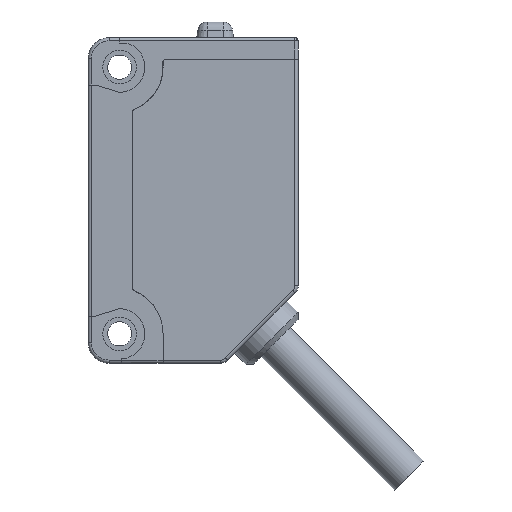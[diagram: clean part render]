
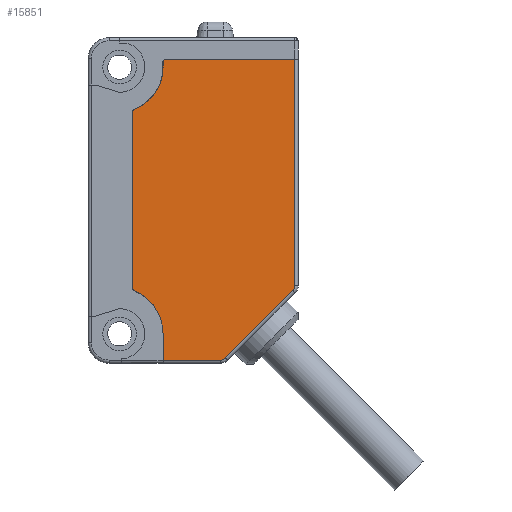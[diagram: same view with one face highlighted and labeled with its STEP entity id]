
A CAD part, left-side view. The second image highlights one B-rep face of the part: STEP entity #15851.
In plain terms, the highlighted planar face has unit normal (-1, 0, 0).
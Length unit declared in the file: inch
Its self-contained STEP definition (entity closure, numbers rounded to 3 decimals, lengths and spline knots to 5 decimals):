
#935 = ORIENTED_EDGE ( 'NONE', *, *, #15238, .F. ) ;
#1095 = CARTESIAN_POINT ( 'NONE',  ( -0.21654, 0.50643, -0.57087 ) ) ;
#1199 = EDGE_CURVE ( 'NONE', #21270, #33873, #14741, .T. ) ;
#1267 = DIRECTION ( 'NONE',  ( 0., 1., 0. ) ) ;
#1318 = EDGE_CURVE ( 'NONE', #1809, #26102, #7555, .T. ) ;
#1695 = VERTEX_POINT ( 'NONE', #8386 ) ;
#1795 = EDGE_CURVE ( 'NONE', #43119, #11109, #35723, .T. ) ;
#1809 = VERTEX_POINT ( 'NONE', #44431 ) ;
#1987 = CARTESIAN_POINT ( 'NONE',  ( -0.21654, 0.27241, -0.56279 ) ) ;
#2736 = EDGE_CURVE ( 'NONE', #28666, #42745, #25081, .T. ) ;
#2838 = CARTESIAN_POINT ( 'NONE',  ( -0.21654, 0., 0. ) ) ;
#3295 = ORIENTED_EDGE ( 'NONE', *, *, #17270, .F. ) ;
#4441 = CARTESIAN_POINT ( 'NONE',  ( -0.21654, 0.6088, -0.30028 ) ) ;
#4713 = VERTEX_POINT ( 'NONE', #25375 ) ;
#5440 = EDGE_CURVE ( 'NONE', #26102, #4713, #41441, .T. ) ;
#6232 = DIRECTION ( 'NONE',  ( 0., -1., 0. ) ) ;
#6259 = EDGE_CURVE ( 'NONE', #39926, #43119, #13761, .T. ) ;
#6353 = VERTEX_POINT ( 'NONE', #42591 ) ;
#6576 = CARTESIAN_POINT ( 'NONE',  ( -0.21654, 0.67717, 0.52805 ) ) ;
#6607 = CARTESIAN_POINT ( 'NONE',  ( -0.21654, 0.03937, -0.29078 ) ) ;
#6726 = VECTOR ( 'NONE', #24065, 39.37008 ) ;
#7150 = VERTEX_POINT ( 'NONE', #13775 ) ;
#7555 = LINE ( 'NONE', #27389, #16955 ) ;
#7605 = EDGE_LOOP ( 'NONE', ( #20472, #41293, #38180, #32283, #3295, #42325, #16532, #37406, #18967, #935, #16782, #17931, #43554, #27049 ) ) ;
#8002 = DIRECTION ( 'NONE',  ( 0., 0., 1. ) ) ;
#8383 = DIRECTION ( 'NONE',  ( 1., 0., 0. ) ) ;
#8386 = CARTESIAN_POINT ( 'NONE',  ( -0.21654, 0.2919, -0.57087 ) ) ;
#9004 = CARTESIAN_POINT ( 'NONE',  ( -0.21654, 0.6088, 0.35879 ) ) ;
#9093 = CIRCLE ( 'NONE', #30093, 0.17073 ) ;
#9444 = FACE_OUTER_BOUND ( 'NONE', #7605, .T. ) ;
#10158 = DIRECTION ( 'NONE',  ( 0., 0., 1. ) ) ;
#10193 = DIRECTION ( 'NONE',  ( 0., 1., 0. ) ) ;
#11002 = EDGE_CURVE ( 'NONE', #33873, #1809, #42636, .T. ) ;
#11109 = VERTEX_POINT ( 'NONE', #23910 ) ;
#11250 = CARTESIAN_POINT ( 'NONE',  ( -0.21654, 0.50643, 0.52805 ) ) ;
#12555 = DIRECTION ( 'NONE',  ( 0., 0., 1. ) ) ;
#12675 = CARTESIAN_POINT ( 'NONE',  ( -0.21654, 0.49462, 0.5458 ) ) ;
#13527 = DIRECTION ( 'NONE',  ( 0., 0., -1. ) ) ;
#13599 = VECTOR ( 'NONE', #28758, 39.37008 ) ;
#13761 = LINE ( 'NONE', #20735, #31472 ) ;
#13775 = CARTESIAN_POINT ( 'NONE',  ( -0.21654, 0.61339, -0.31116 ) ) ;
#14284 = CIRCLE ( 'NONE', #17305, 0.01181 ) ;
#14741 = LINE ( 'NONE', #35909, #13599 ) ;
#15238 = EDGE_CURVE ( 'NONE', #6353, #18265, #25514, .T. ) ;
#15322 = CARTESIAN_POINT ( 'NONE',  ( -0.21654, 0.50643, 0.5458 ) ) ;
#15707 = VECTOR ( 'NONE', #32168, 39.37008 ) ;
#15851 = ADVANCED_FACE ( 'NONE', ( #9444 ), #31164, .F. ) ;
#16236 = DIRECTION ( 'NONE',  ( 0., 0., 1. ) ) ;
#16532 = ORIENTED_EDGE ( 'NONE', *, *, #2736, .F. ) ;
#16782 = ORIENTED_EDGE ( 'NONE', *, *, #36564, .F. ) ;
#16955 = VECTOR ( 'NONE', #6232, 39.37008 ) ;
#17205 = CARTESIAN_POINT ( 'NONE',  ( -0.21654, 0.68151, -0.47244 ) ) ;
#17270 = EDGE_CURVE ( 'NONE', #7150, #39926, #14284, .T. ) ;
#17305 = AXIS2_PLACEMENT_3D ( 'NONE', #4441, #29175, #8002 ) ;
#17872 = EDGE_CURVE ( 'NONE', #42745, #7150, #36908, .T. ) ;
#17931 = ORIENTED_EDGE ( 'NONE', *, *, #5440, .F. ) ;
#18265 = VERTEX_POINT ( 'NONE', #1987 ) ;
#18929 = CARTESIAN_POINT ( 'NONE',  ( -0.21654, 0., -0.57087 ) ) ;
#18967 = ORIENTED_EDGE ( 'NONE', *, *, #35065, .F. ) ;
#19593 = DIRECTION ( 'NONE',  ( 0., 0., -1. ) ) ;
#20472 = ORIENTED_EDGE ( 'NONE', *, *, #1199, .F. ) ;
#20540 = AXIS2_PLACEMENT_3D ( 'NONE', #6607, #31353, #10193 ) ;
#20717 = DIRECTION ( 'NONE',  ( 0., 0., 1. ) ) ;
#20735 = CARTESIAN_POINT ( 'NONE',  ( -0.21654, 0.62061, 0. ) ) ;
#21270 = VERTEX_POINT ( 'NONE', #11250 ) ;
#22600 = VECTOR ( 'NONE', #19593, 39.37008 ) ;
#23910 = CARTESIAN_POINT ( 'NONE',  ( -0.21654, 0.61322, 0.36975 ) ) ;
#24065 = DIRECTION ( 'NONE',  ( 0., 0.707, -0.707 ) ) ;
#24294 = DIRECTION ( 'NONE',  ( 0., 0., 1. ) ) ;
#25081 = LINE ( 'NONE', #42716, #15707 ) ;
#25375 = CARTESIAN_POINT ( 'NONE',  ( -0.21654, 0.01181, -0.29078 ) ) ;
#25514 = LINE ( 'NONE', #27627, #6726 ) ;
#25983 = CARTESIAN_POINT ( 'NONE',  ( -0.21654, 0.62061, 0.35879 ) ) ;
#26102 = VERTEX_POINT ( 'NONE', #45279 ) ;
#26390 = AXIS2_PLACEMENT_3D ( 'NONE', #2838, #34715, #13527 ) ;
#26413 = EDGE_CURVE ( 'NONE', #1695, #28666, #40250, .T. ) ;
#26902 = CIRCLE ( 'NONE', #44857, 0.02756 ) ;
#27049 = ORIENTED_EDGE ( 'NONE', *, *, #11002, .F. ) ;
#27389 = CARTESIAN_POINT ( 'NONE',  ( -0.21654, 0., 0.55761 ) ) ;
#27627 = CARTESIAN_POINT ( 'NONE',  ( -0.21654, 0.01988, -0.31027 ) ) ;
#28425 = CIRCLE ( 'NONE', #20540, 0.02756 ) ;
#28666 = VERTEX_POINT ( 'NONE', #1095 ) ;
#28758 = DIRECTION ( 'NONE',  ( 0., 0., 1. ) ) ;
#29175 = DIRECTION ( 'NONE',  ( 1., 0., 0. ) ) ;
#29185 = AXIS2_PLACEMENT_3D ( 'NONE', #9004, #33718, #12555 ) ;
#29536 = CARTESIAN_POINT ( 'NONE',  ( -0.21654, 0.2919, -0.54331 ) ) ;
#29625 = EDGE_CURVE ( 'NONE', #11109, #21270, #9093, .T. ) ;
#30093 = AXIS2_PLACEMENT_3D ( 'NONE', #6576, #31325, #10158 ) ;
#31164 = PLANE ( 'NONE',  #26390 ) ;
#31325 = DIRECTION ( 'NONE',  ( -1., 0., 0. ) ) ;
#31353 = DIRECTION ( 'NONE',  ( 1., 0., 0. ) ) ;
#31472 = VECTOR ( 'NONE', #24294, 39.37008 ) ;
#32123 = AXIS2_PLACEMENT_3D ( 'NONE', #17205, #41962, #20717 ) ;
#32168 = DIRECTION ( 'NONE',  ( 0., 0., 1. ) ) ;
#32283 = ORIENTED_EDGE ( 'NONE', *, *, #6259, .F. ) ;
#33112 = DIRECTION ( 'NONE',  ( 0., 0., -1. ) ) ;
#33506 = CARTESIAN_POINT ( 'NONE',  ( -0.21654, 0.62061, -0.30028 ) ) ;
#33718 = DIRECTION ( 'NONE',  ( 1., 0., 0. ) ) ;
#33873 = VERTEX_POINT ( 'NONE', #15322 ) ;
#34715 = DIRECTION ( 'NONE',  ( 1., 0., 0. ) ) ;
#35065 = EDGE_CURVE ( 'NONE', #18265, #1695, #26902, .T. ) ;
#35723 = CIRCLE ( 'NONE', #29185, 0.01181 ) ;
#35909 = CARTESIAN_POINT ( 'NONE',  ( -0.21654, 0.50643, 0. ) ) ;
#36564 = EDGE_CURVE ( 'NONE', #4713, #6353, #28425, .T. ) ;
#36908 = CIRCLE ( 'NONE', #32123, 0.17508 ) ;
#37397 = DIRECTION ( 'NONE',  ( 1., 0., 0. ) ) ;
#37406 = ORIENTED_EDGE ( 'NONE', *, *, #26413, .F. ) ;
#38105 = CARTESIAN_POINT ( 'NONE',  ( -0.21654, 0.50643, -0.47244 ) ) ;
#38180 = ORIENTED_EDGE ( 'NONE', *, *, #1795, .F. ) ;
#39147 = VECTOR ( 'NONE', #1267, 39.37008 ) ;
#39926 = VERTEX_POINT ( 'NONE', #33506 ) ;
#40250 = LINE ( 'NONE', #18929, #39147 ) ;
#41052 = AXIS2_PLACEMENT_3D ( 'NONE', #12675, #37397, #16236 ) ;
#41293 = ORIENTED_EDGE ( 'NONE', *, *, #29625, .F. ) ;
#41441 = LINE ( 'NONE', #44378, #22600 ) ;
#41962 = DIRECTION ( 'NONE',  ( -1., 0., 0. ) ) ;
#42325 = ORIENTED_EDGE ( 'NONE', *, *, #17872, .F. ) ;
#42591 = CARTESIAN_POINT ( 'NONE',  ( -0.21654, 0.01988, -0.31027 ) ) ;
#42636 = CIRCLE ( 'NONE', #41052, 0.01181 ) ;
#42716 = CARTESIAN_POINT ( 'NONE',  ( -0.21654, 0.50643, 0. ) ) ;
#42745 = VERTEX_POINT ( 'NONE', #38105 ) ;
#43119 = VERTEX_POINT ( 'NONE', #25983 ) ;
#43554 = ORIENTED_EDGE ( 'NONE', *, *, #1318, .F. ) ;
#44378 = CARTESIAN_POINT ( 'NONE',  ( -0.21654, 0.01181, 0. ) ) ;
#44431 = CARTESIAN_POINT ( 'NONE',  ( -0.21654, 0.49462, 0.55761 ) ) ;
#44857 = AXIS2_PLACEMENT_3D ( 'NONE', #29536, #8383, #33112 ) ;
#45279 = CARTESIAN_POINT ( 'NONE',  ( -0.21654, 0.01181, 0.55761 ) ) ;
